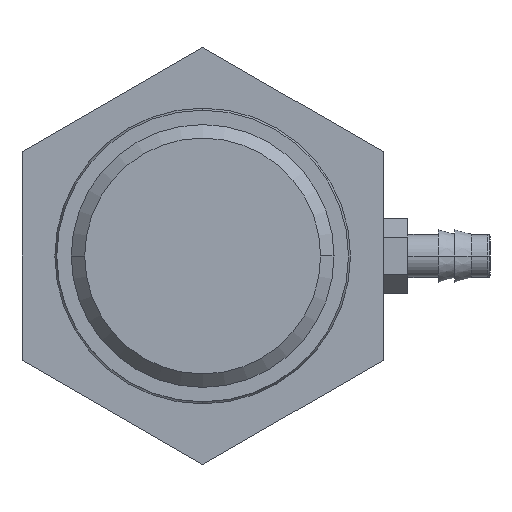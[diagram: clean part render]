
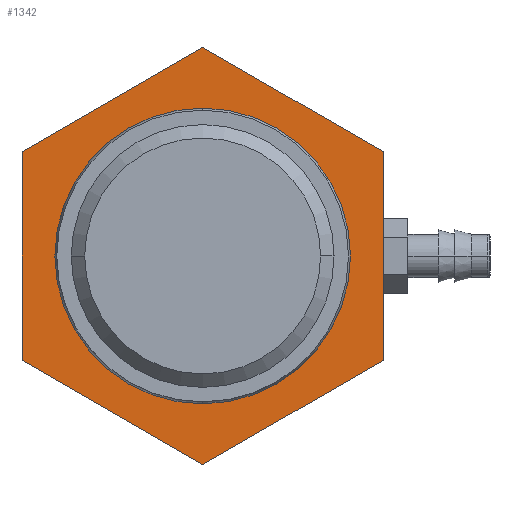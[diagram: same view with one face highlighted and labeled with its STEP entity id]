
A CAD part, left-side view. The second image highlights one B-rep face of the part: STEP entity #1342.
In plain terms, the highlighted planar face has unit normal (-1, 0, 0).
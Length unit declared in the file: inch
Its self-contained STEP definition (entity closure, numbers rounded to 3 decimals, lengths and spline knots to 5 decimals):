
#977=CARTESIAN_POINT('',(-2.75,0.,0.));
#978=DIRECTION('',(1.,0.,0.));
#979=DIRECTION('',(0.,1.,0.));
#980=AXIS2_PLACEMENT_3D('',#977,#978,#979);
#982=CARTESIAN_POINT('',(-2.75,0.,0.));
#983=DIRECTION('',(1.,0.,0.));
#984=DIRECTION('',(0.,-1.,0.));
#985=AXIS2_PLACEMENT_3D('',#982,#983,#984);
#987=DIRECTION('',(0.,-0.866,-0.5));
#988=VECTOR('',#987,0.79386);
#989=CARTESIAN_POINT('',(-2.75,0.6875,-0.39693));
#990=LINE('',#989,#988);
#991=DIRECTION('',(0.,0.866,-0.5));
#992=VECTOR('',#991,0.79386);
#993=CARTESIAN_POINT('',(-2.75,0.,0.79386));
#994=LINE('',#993,#992);
#995=DIRECTION('',(0.,0.866,0.5));
#996=VECTOR('',#995,0.79386);
#997=CARTESIAN_POINT('',(-2.75,-0.6875,0.39693));
#998=LINE('',#997,#996);
#999=DIRECTION('',(0.,-0.866,0.5));
#1000=VECTOR('',#999,0.79386);
#1001=CARTESIAN_POINT('',(-2.75,0.,-0.79386));
#1002=LINE('',#1001,#1000);
#1031=DIRECTION('',(0.,0.,-1.));
#1032=VECTOR('',#1031,0.79386);
#1033=CARTESIAN_POINT('',(-2.75,-0.6875,0.39693));
#1034=LINE('',#1033,#1032);
#1051=DIRECTION('',(0.,0.,1.));
#1052=VECTOR('',#1051,0.79386);
#1053=CARTESIAN_POINT('',(-2.75,0.6875,-0.39693));
#1054=LINE('',#1053,#1052);
#1059=CARTESIAN_POINT('',(-2.75,0.6875,-0.39693));
#1060=CARTESIAN_POINT('',(-2.75,0.,-0.79386));
#1061=VERTEX_POINT('',#1059);
#1062=VERTEX_POINT('',#1060);
#1063=CARTESIAN_POINT('',(-2.75,-0.6875,-0.39693));
#1064=VERTEX_POINT('',#1063);
#1065=CARTESIAN_POINT('',(-2.75,0.6875,0.39693));
#1066=VERTEX_POINT('',#1065);
#1067=CARTESIAN_POINT('',(-2.75,-0.6875,0.39693));
#1068=VERTEX_POINT('',#1067);
#1069=CARTESIAN_POINT('',(-2.75,0.,0.79386));
#1070=VERTEX_POINT('',#1069);
#1083=CARTESIAN_POINT('',(-2.75,-0.475,0.));
#1085=VERTEX_POINT('',#1083);
#1087=CARTESIAN_POINT('',(-2.75,0.475,0.));
#1089=VERTEX_POINT('',#1087);
#1319=CARTESIAN_POINT('',(-2.75,0.,0.));
#1320=DIRECTION('',(1.,0.,0.));
#1321=DIRECTION('',(0.,0.,-1.));
#1322=AXIS2_PLACEMENT_3D('',#1319,#1320,#1321);
#1323=PLANE('',#1322);
#1325=ORIENTED_EDGE('',*,*,#1324,.F.);
#1327=ORIENTED_EDGE('',*,*,#1326,.T.);
#1329=ORIENTED_EDGE('',*,*,#1328,.F.);
#1331=ORIENTED_EDGE('',*,*,#1330,.F.);
#1333=ORIENTED_EDGE('',*,*,#1332,.T.);
#1335=ORIENTED_EDGE('',*,*,#1334,.F.);
#1336=EDGE_LOOP('',(#1325,#1327,#1329,#1331,#1333,#1335));
#1337=FACE_OUTER_BOUND('',#1336,.F.);
#1338=ORIENTED_EDGE('',*,*,#1313,.F.);
#1339=ORIENTED_EDGE('',*,*,#1128,.F.);
#1340=EDGE_LOOP('',(#1338,#1339));
#1341=FACE_BOUND('',#1340,.F.);
#981=CIRCLE('',#980,0.475);
#986=CIRCLE('',#985,0.475);
#1128=EDGE_CURVE('',#1085,#1089,#986,.T.);
#1313=EDGE_CURVE('',#1089,#1085,#981,.T.);
#1324=EDGE_CURVE('',#1061,#1062,#990,.T.);
#1326=EDGE_CURVE('',#1061,#1066,#1054,.T.);
#1328=EDGE_CURVE('',#1070,#1066,#994,.T.);
#1330=EDGE_CURVE('',#1068,#1070,#998,.T.);
#1332=EDGE_CURVE('',#1068,#1064,#1034,.T.);
#1334=EDGE_CURVE('',#1062,#1064,#1002,.T.);
#1342=ADVANCED_FACE('',(#1337,#1341),#1323,.F.);
